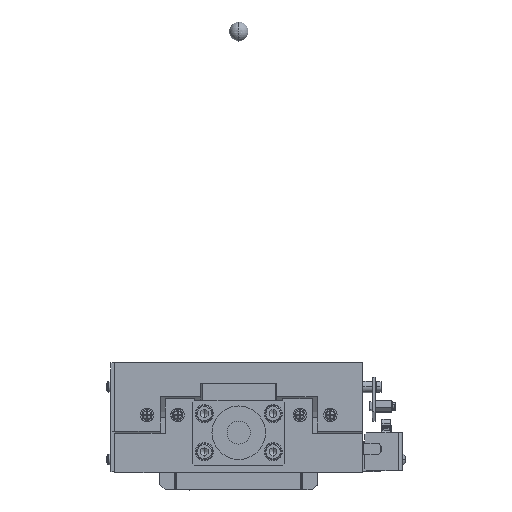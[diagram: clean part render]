
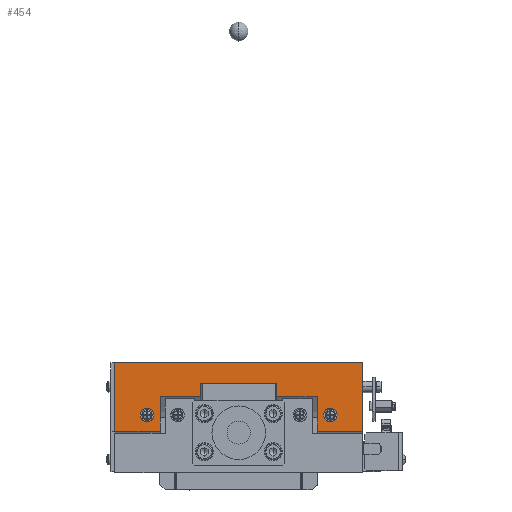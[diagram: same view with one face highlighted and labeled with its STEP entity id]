
A CAD part, left-side view. The second image highlights one B-rep face of the part: STEP entity #454.
In plain terms, the highlighted planar face has unit normal (-1, 0, 0).
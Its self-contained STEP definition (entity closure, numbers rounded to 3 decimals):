
#454=ADVANCED_FACE('',(#7049,#7050,#7051),#7048,.T.);
#7048=PLANE('',#43813);
#7049=FACE_OUTER_BOUND('',#43814,.T.);
#7050=FACE_BOUND('',#43815,.T.);
#7051=FACE_BOUND('',#43816,.T.);
#43810=CARTESIAN_POINT('',(-65.,75.,61.613));
#43811=DIRECTION('',(-1.,0.,0.));
#43812=DIRECTION('',(0.,0.,-1.));
#43813=AXIS2_PLACEMENT_3D('',#43810,#43811,#43812);
#43814=EDGE_LOOP('',(#68724,#68725,#68726,#68727,#68728,#68729,#68730,#68731,#68732,#68733,#68734,#68735));
#43815=EDGE_LOOP('',(#68736,#68737));
#43816=EDGE_LOOP('',(#68738,#68739));
#68724=ORIENTED_EDGE('',*,*,#85930,.F.);
#68725=ORIENTED_EDGE('',*,*,#86634,.F.);
#68726=ORIENTED_EDGE('',*,*,#86614,.T.);
#68727=ORIENTED_EDGE('',*,*,#85919,.T.);
#68728=ORIENTED_EDGE('',*,*,#86613,.F.);
#68729=ORIENTED_EDGE('',*,*,#86612,.F.);
#68730=ORIENTED_EDGE('',*,*,#86605,.F.);
#68731=ORIENTED_EDGE('',*,*,#86625,.T.);
#68732=ORIENTED_EDGE('',*,*,#85908,.T.);
#68733=ORIENTED_EDGE('',*,*,#85923,.T.);
#68734=ORIENTED_EDGE('',*,*,#86701,.T.);
#68735=ORIENTED_EDGE('',*,*,#86702,.T.);
#68736=ORIENTED_EDGE('',*,*,#86703,.T.);
#68737=ORIENTED_EDGE('',*,*,#86704,.T.);
#68738=ORIENTED_EDGE('',*,*,#86705,.T.);
#68739=ORIENTED_EDGE('',*,*,#86706,.T.);
#85908=EDGE_CURVE('',#97033,#97048,#97055,.T.);
#85919=EDGE_CURVE('',#97132,#97125,#97133,.T.);
#85923=EDGE_CURVE('',#97048,#97151,#97159,.T.);
#85930=EDGE_CURVE('',#97198,#97205,#97206,.T.);
#86605=EDGE_CURVE('',#101700,#101685,#101707,.T.);
#86612=EDGE_CURVE('',#101685,#101713,#101753,.T.);
#86613=EDGE_CURVE('',#101713,#97125,#101759,.T.);
#86614=EDGE_CURVE('',#101765,#97132,#101766,.T.);
#86625=EDGE_CURVE('',#101700,#97033,#101839,.T.);
#86634=EDGE_CURVE('',#101765,#97198,#101898,.T.);
#86701=EDGE_CURVE('',#97151,#102366,#102367,.T.);
#86702=EDGE_CURVE('',#102366,#97205,#102373,.T.);
#86703=EDGE_CURVE('',#102379,#102380,#102381,.T.);
#86704=EDGE_CURVE('',#102380,#102379,#102387,.T.);
#86705=EDGE_CURVE('',#102393,#102394,#102395,.T.);
#86706=EDGE_CURVE('',#102394,#102393,#102401,.T.);
#97033=VERTEX_POINT('',#159095);
#97048=VERTEX_POINT('',#159104);
#97055=LINE('',#159109,#159110);
#97125=VERTEX_POINT('',#159150);
#97132=VERTEX_POINT('',#159155);
#97133=LINE('',#159156,#159157);
#97151=VERTEX_POINT('',#159167);
#97159=LINE('',#159173,#159174);
#97198=VERTEX_POINT('',#159194);
#97205=VERTEX_POINT('',#159198);
#97206=LINE('',#159199,#159200);
#101685=VERTEX_POINT('',#161818);
#101700=VERTEX_POINT('',#161828);
#101707=LINE('',#161832,#161833);
#101713=VERTEX_POINT('',#161835);
#101753=LINE('',#161859,#161860);
#101759=LINE('',#161862,#161863);
#101765=VERTEX_POINT('',#161865);
#101766=LINE('',#161866,#161867);
#101839=LINE('',#161909,#161910);
#101898=LINE('',#161941,#161942);
#102366=VERTEX_POINT('',#162274);
#102367=LINE('',#162275,#162276);
#102373=LINE('',#162278,#162279);
#102379=VERTEX_POINT('',#162281);
#102380=VERTEX_POINT('',#162282);
#102381=CIRCLE('',#162286,3.5);
#102387=CIRCLE('',#162290,3.5);
#102393=VERTEX_POINT('',#162291);
#102394=VERTEX_POINT('',#162292);
#102395=CIRCLE('',#162296,3.5);
#102401=CIRCLE('',#162300,3.5);
#159095=CARTESIAN_POINT('',(-65.,-20.,47.));
#159104=CARTESIAN_POINT('',(-65.,-20.,39.744));
#159109=CARTESIAN_POINT('',(-65.,-20.,47.));
#159110=VECTOR('',#159111,7.256);
#159111=DIRECTION('',(0.,0.,-1.));
#159150=CARTESIAN_POINT('',(-65.,41.,21.868));
#159155=CARTESIAN_POINT('',(-65.,65.,21.868));
#159156=CARTESIAN_POINT('',(-65.,65.,21.868));
#159157=VECTOR('',#159158,24.);
#159158=DIRECTION('',(0.,-1.,0.));
#159167=CARTESIAN_POINT('',(-65.,-41.,39.744));
#159173=CARTESIAN_POINT('',(-65.,-20.,39.744));
#159174=VECTOR('',#159175,21.);
#159175=DIRECTION('',(0.,-1.,0.));
#159194=CARTESIAN_POINT('',(-65.,-65.,58.));
#159198=CARTESIAN_POINT('',(-65.,-65.,21.868));
#159199=CARTESIAN_POINT('',(-65.,-65.,58.));
#159200=VECTOR('',#159201,36.132);
#159201=DIRECTION('',(0.,0.,-1.));
#161818=CARTESIAN_POINT('',(-65.,20.,39.744));
#161828=CARTESIAN_POINT('',(-65.,20.,47.));
#161832=CARTESIAN_POINT('',(-65.,20.,47.));
#161833=VECTOR('',#161834,7.256);
#161834=DIRECTION('',(0.,0.,-1.));
#161835=CARTESIAN_POINT('',(-65.,41.,39.744));
#161859=CARTESIAN_POINT('',(-65.,20.,39.744));
#161860=VECTOR('',#161861,21.);
#161861=DIRECTION('',(0.,1.,0.));
#161862=CARTESIAN_POINT('',(-65.,41.,39.744));
#161863=VECTOR('',#161864,17.875);
#161864=DIRECTION('',(0.,0.,-1.));
#161865=CARTESIAN_POINT('',(-65.,65.,58.));
#161866=CARTESIAN_POINT('',(-65.,65.,58.));
#161867=VECTOR('',#161868,36.132);
#161868=DIRECTION('',(0.,0.,-1.));
#161909=CARTESIAN_POINT('',(-65.,20.,47.));
#161910=VECTOR('',#161911,40.);
#161911=DIRECTION('',(0.,-1.,0.));
#161941=CARTESIAN_POINT('',(-65.,65.,58.));
#161942=VECTOR('',#161943,130.);
#161943=DIRECTION('',(0.,-1.,0.));
#162274=CARTESIAN_POINT('',(-65.,-41.,21.868));
#162275=CARTESIAN_POINT('',(-65.,-41.,39.744));
#162276=VECTOR('',#162277,17.875);
#162277=DIRECTION('',(0.,0.,-1.));
#162278=CARTESIAN_POINT('',(-65.,-41.,21.868));
#162279=VECTOR('',#162280,24.);
#162280=DIRECTION('',(0.,-1.,0.));
#162281=CARTESIAN_POINT('',(-65.,-48.,33.8));
#162282=CARTESIAN_POINT('',(-65.,-48.,26.8));
#162283=CARTESIAN_POINT('',(-65.,-48.,30.3));
#162284=DIRECTION('',(1.,0.,0.));
#162285=DIRECTION('',(0.,0.,1.));
#162286=AXIS2_PLACEMENT_3D('',#162283,#162284,#162285);
#162287=CARTESIAN_POINT('',(-65.,-48.,30.3));
#162288=DIRECTION('',(1.,0.,0.));
#162289=DIRECTION('',(0.,0.,1.));
#162290=AXIS2_PLACEMENT_3D('',#162287,#162288,#162289);
#162291=CARTESIAN_POINT('',(-65.,48.,33.8));
#162292=CARTESIAN_POINT('',(-65.,48.,26.8));
#162293=CARTESIAN_POINT('',(-65.,48.,30.3));
#162294=DIRECTION('',(1.,0.,0.));
#162295=DIRECTION('',(0.,0.,1.));
#162296=AXIS2_PLACEMENT_3D('',#162293,#162294,#162295);
#162297=CARTESIAN_POINT('',(-65.,48.,30.3));
#162298=DIRECTION('',(1.,0.,0.));
#162299=DIRECTION('',(0.,0.,1.));
#162300=AXIS2_PLACEMENT_3D('',#162297,#162298,#162299);
